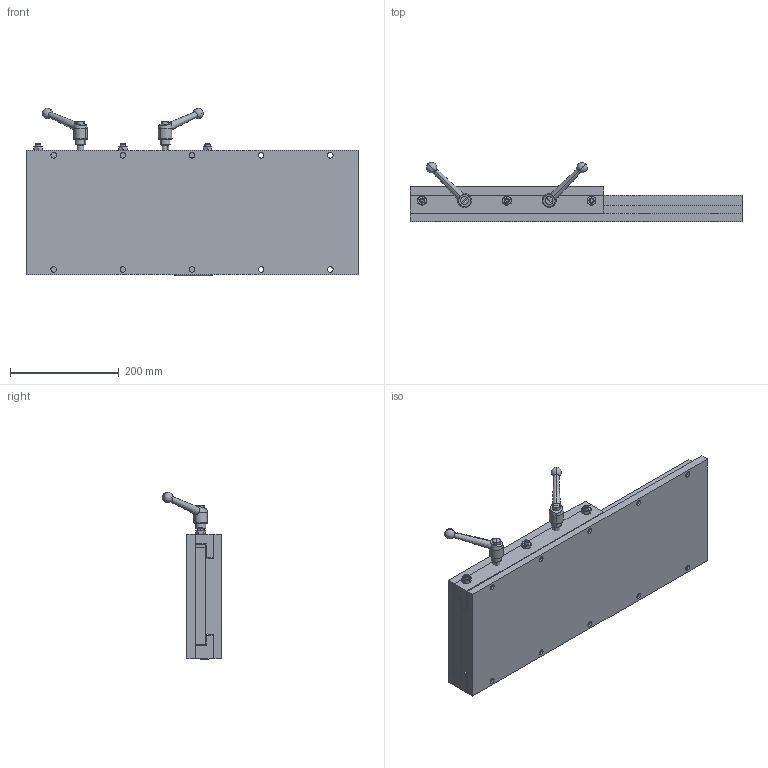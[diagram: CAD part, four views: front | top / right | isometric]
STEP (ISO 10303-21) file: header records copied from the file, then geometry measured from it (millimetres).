
FILE_DESCRIPTION (( 'STEP AP214' ), '1' );
FILE_NAME ('SW09-SL14-BL24-LH.STEP', '2011-06-16T19:33:18', ( '' ), ( '' ), 'SwSTEP 2.0', 'SolidWorks 2011', '' );
FILE_SCHEMA (( 'AUTOMOTIVE_DESIGN' ));
Length unit declared in the file: inch
Products named in the file (13): KHB_102; _MSHXNUT_MSHXNUT 0.375-24-D-N; _SSCUPSOC_SSCUPSKT 0.375-24x1.25-HX-N; Tag; Gen2 Bar_09x14 BAR; Gen2 Adj Gib_09x14 ADJ GIB; Gen2 Gib_09x14 GIB; Gen2 Top plate_09x14 TPLATE; Gen2 BASE_09x24 BASE; Gen2 Hardplate_09x24 HPLATE; Gen2 Baseplate_09x24 BASE; SW09-SL14-BL24-LH; Gen2 SADDLE_09x14 SADDLE with LOCK HANDLES
Assembly tree (17 placements, depth 3):
  SW09-SL14-BL24-LH
    Gen2 SADDLE_09x14 SADDLE with LOCK HANDLES
      Gen2 Top plate_09x14 TPLATE
      Gen2 Bar_09x14 BAR
      Gen2 Adj Gib_09x14 ADJ GIB
      Gen2 Gib_09x14 GIB
      _SSCUPSOC_SSCUPSKT 0.375-24x1.25-HX-N  x3
      _MSHXNUT_MSHXNUT 0.375-24-D-N  x3
      KHB_102  x2
      Tag
    Gen2 BASE_09x24 BASE
      Gen2 Hardplate_09x24 HPLATE
      Gen2 Baseplate_09x24 BASE
Bounding box: 609.6 x 108 x 307.51 mm (x, y, z)
Volume: 7340981.7 mm3; surface area: 1104228.8 mm2
Topology: 20 solids, 20 shells, 369 faces, 836 edges, 517 vertices
Faces by surface type: plane 161, cylinder 110, cone 90, sphere 4, bspline 4
Entity records: 8966 total; most frequent: CARTESIAN_POINT 2221, DIRECTION 1259, ORIENTED_EDGE 1126, EDGE_CURVE 563, AXIS2_PLACEMENT_3D 472, VERTEX_POINT 362, LINE 315, VECTOR 315
